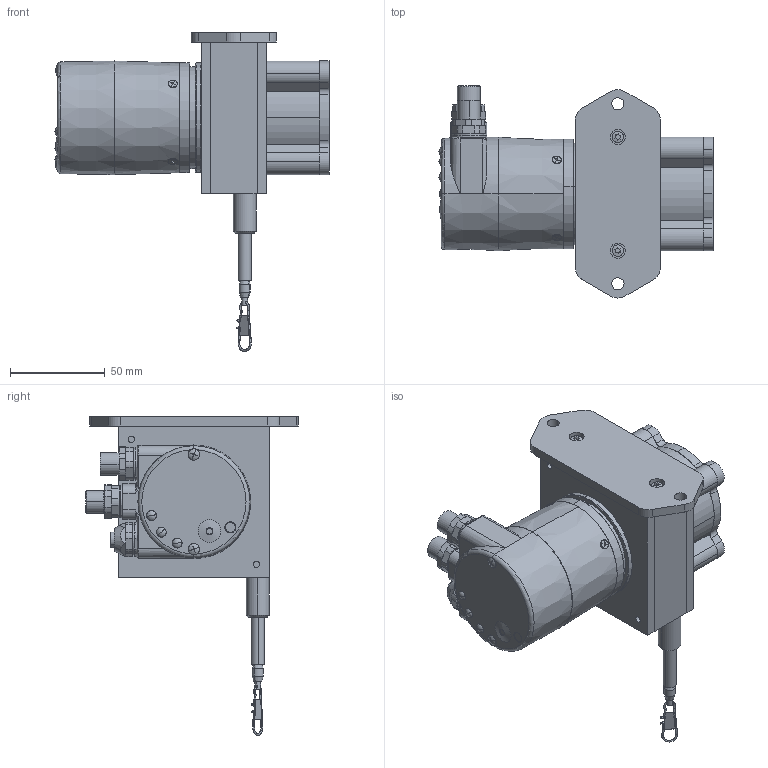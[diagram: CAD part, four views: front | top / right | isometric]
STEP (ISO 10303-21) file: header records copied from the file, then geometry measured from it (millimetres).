
FILE_DESCRIPTION (( 'STEP AP214' ), '1' );
FILE_NAME ('D8.4B1.0300.6832.3113.STEP', '2009-05-12T07:54:36', ( 'admin' ), ( 'Fritz Kübler GmbH' ), 'SwSTEP 2.0', 'SolidWorks 2009', '' );
FILE_SCHEMA (( 'AUTOMOTIVE_DESIGN' ));
Length unit declared in the file: millimetre
Products named in the file (1): D8.4B1.0300.6832.3113
Bounding box: 144.65 x 112 x 168.32 mm (x, y, z)
Volume: 232484.7 mm3; surface area: 145815.2 mm2
Topology: 32 solids, 33 shells, 1668 faces, 4048 edges, 2496 vertices
Faces by surface type: cylinder 649, plane 556, cone 257, torus 127, bspline 46, sphere 33
Entity records: 70853 total; most frequent: CARTESIAN_POINT 12689, DIRECTION 8672, ORIENTED_EDGE 7964, EDGE_CURVE 3982, AXIS2_PLACEMENT_3D 3450, VERTEX_POINT 2495, EDGE_LOOP 1891, CIRCLE 1827
